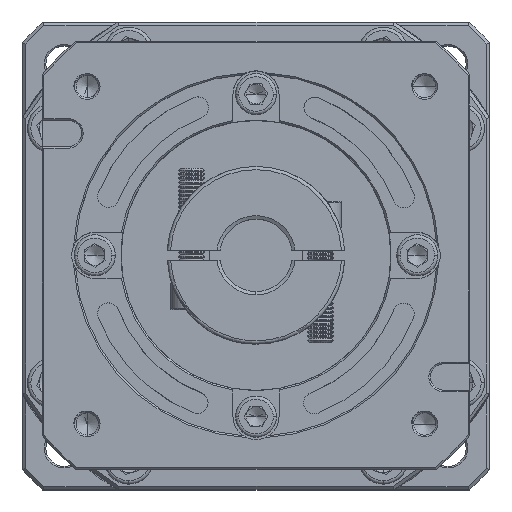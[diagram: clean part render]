
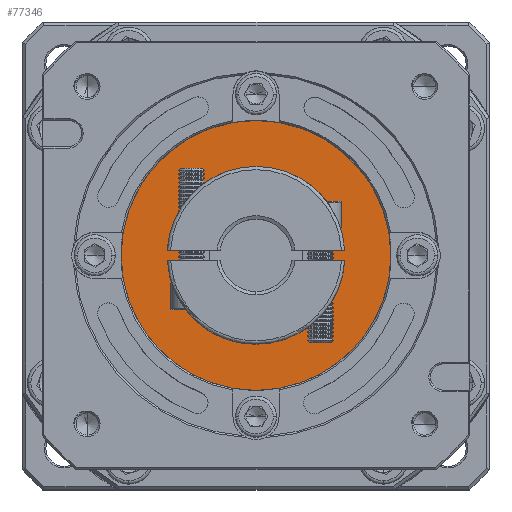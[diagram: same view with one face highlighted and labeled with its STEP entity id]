
A CAD part, top view. The second image highlights one B-rep face of the part: STEP entity #77346.
In plain terms, the highlighted planar face has unit normal (0, 0, 1).
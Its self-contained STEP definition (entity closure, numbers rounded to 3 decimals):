
#2024 = ORIENTED_EDGE ( 'NONE', *, *, #17898, .T. ) ;
#5381 = ORIENTED_EDGE ( 'NONE', *, *, #115151, .T. ) ;
#5907 = VERTEX_POINT ( 'NONE', #88496 ) ;
#7915 = CIRCLE ( 'NONE', #13976, 41. ) ;
#8426 = CARTESIAN_POINT ( 'NONE',  ( -116.809, 63.979, -35.355 ) ) ;
#11364 = EDGE_LOOP ( 'NONE', ( #5381, #108000 ) ) ;
#13976 = AXIS2_PLACEMENT_3D ( 'NONE', #122795, #21212, #40415 ) ;
#17898 = EDGE_CURVE ( 'NONE', #113144, #37687, #7915, .T. ) ;
#18637 = DIRECTION ( 'NONE',  ( 1., 0., 0. ) ) ;
#21212 = DIRECTION ( 'NONE',  ( 0., 0., 1. ) ) ;
#36821 = FACE_BOUND ( 'NONE', #11364, .T. ) ;
#37687 = VERTEX_POINT ( 'NONE', #81184 ) ;
#38980 = ORIENTED_EDGE ( 'NONE', *, *, #115836, .T. ) ;
#40415 = DIRECTION ( 'NONE',  ( 1., 0., 0. ) ) ;
#43154 = AXIS2_PLACEMENT_3D ( 'NONE', #65832, #55980, #65409 ) ;
#48652 = DIRECTION ( 'NONE',  ( 0., 0., -1. ) ) ;
#55980 = DIRECTION ( 'NONE',  ( 0., 0., -1. ) ) ;
#58773 = VERTEX_POINT ( 'NONE', #92265 ) ;
#65409 = DIRECTION ( 'NONE',  ( 1., 0., 0. ) ) ;
#65832 = CARTESIAN_POINT ( 'NONE',  ( -116.809, 63.979, -35.355 ) ) ;
#67449 = CARTESIAN_POINT ( 'NONE',  ( -116.809, 63.979, -35.355 ) ) ;
#70008 = AXIS2_PLACEMENT_3D ( 'NONE', #8426, #48652, #18637 ) ;
#77300 = DIRECTION ( 'NONE',  ( 1., 0., 0. ) ) ;
#77346 = ADVANCED_FACE ( 'NONE', ( #99284, #36821 ), #114018, .T. ) ;
#77734 = DIRECTION ( 'NONE',  ( 0., 0., 1. ) ) ;
#81184 = CARTESIAN_POINT ( 'NONE',  ( -75.809, 63.979, -35.355 ) ) ;
#84137 = EDGE_CURVE ( 'NONE', #5907, #58773, #130115, .T. ) ;
#84705 = CIRCLE ( 'NONE', #43154, 20. ) ;
#88496 = CARTESIAN_POINT ( 'NONE',  ( -136.809, 63.979, -35.355 ) ) ;
#91396 = CARTESIAN_POINT ( 'NONE',  ( -157.809, 63.979, -35.355 ) ) ;
#92265 = CARTESIAN_POINT ( 'NONE',  ( -96.809, 63.979, -35.355 ) ) ;
#95633 = CIRCLE ( 'NONE', #131622, 41. ) ;
#99284 = FACE_OUTER_BOUND ( 'NONE', #123229, .T. ) ;
#103430 = AXIS2_PLACEMENT_3D ( 'NONE', #124693, #107699, #128255 ) ;
#107699 = DIRECTION ( 'NONE',  ( 0., 0., 1. ) ) ;
#108000 = ORIENTED_EDGE ( 'NONE', *, *, #84137, .T. ) ;
#113144 = VERTEX_POINT ( 'NONE', #91396 ) ;
#114018 = PLANE ( 'NONE',  #103430 ) ;
#115151 = EDGE_CURVE ( 'NONE', #58773, #5907, #84705, .T. ) ;
#115836 = EDGE_CURVE ( 'NONE', #37687, #113144, #95633, .T. ) ;
#122795 = CARTESIAN_POINT ( 'NONE',  ( -116.809, 63.979, -35.355 ) ) ;
#123229 = EDGE_LOOP ( 'NONE', ( #38980, #2024 ) ) ;
#124693 = CARTESIAN_POINT ( 'NONE',  ( -116.809, 63.979, -35.355 ) ) ;
#128255 = DIRECTION ( 'NONE',  ( 1., 0., 0. ) ) ;
#130115 = CIRCLE ( 'NONE', #70008, 20. ) ;
#131622 = AXIS2_PLACEMENT_3D ( 'NONE', #67449, #77734, #77300 ) ;
